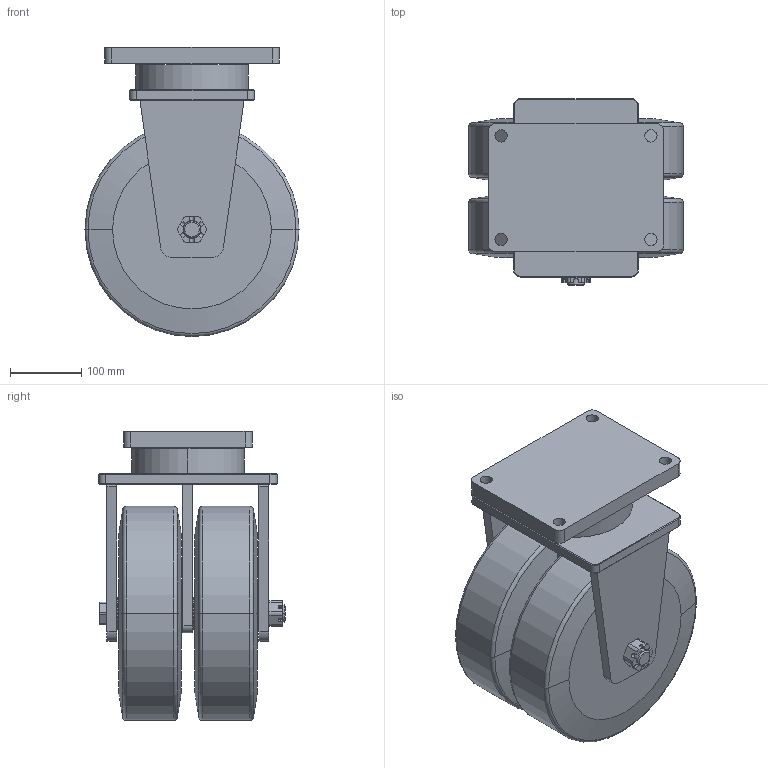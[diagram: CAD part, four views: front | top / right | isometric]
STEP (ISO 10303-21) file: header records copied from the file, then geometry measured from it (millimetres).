
FILE_DESCRIPTION(/* description */ (''),/* implementation_level */ '2;1');
FILE_NAME(/* name */ '40B20_12_F.stp',/* time_stamp */ '2022-08-29T10:53:04+08:00',/* author */ (''),/* organization */ (''),/* preprocessor_version */ 'ST-DEVELOPER v14',/* originating_system */ 'SIEMENS PLM Software NX 8.0',/* authorisation */ '');
FILE_SCHEMA (('AUTOMOTIVE_DESIGN { 1 0 10303 214 3 1 1 1 }'));
Length unit declared in the file: millimetre
Products named in the file (1): 40B20_12_F
Bounding box: 300 x 261.5 x 405 mm (x, y, z)
Volume: 15157720.1 mm3; surface area: 791358.9 mm2
Topology: 1 solids, 1 shells, 367 faces, 960 edges, 630 vertices
Faces by surface type: plane 242, cylinder 99, cone 18, torus 8
Full cylindrical faces by diameter (mm): 17 x4, 25.5 x2
Entity records: 11746 total; most frequent: CARTESIAN_POINT 2968, ORIENTED_EDGE 1904, DIRECTION 1666, EDGE_CURVE 952, VERTEX_POINT 628, AXIS2_PLACEMENT_3D 596, LINE 474, VECTOR 474
